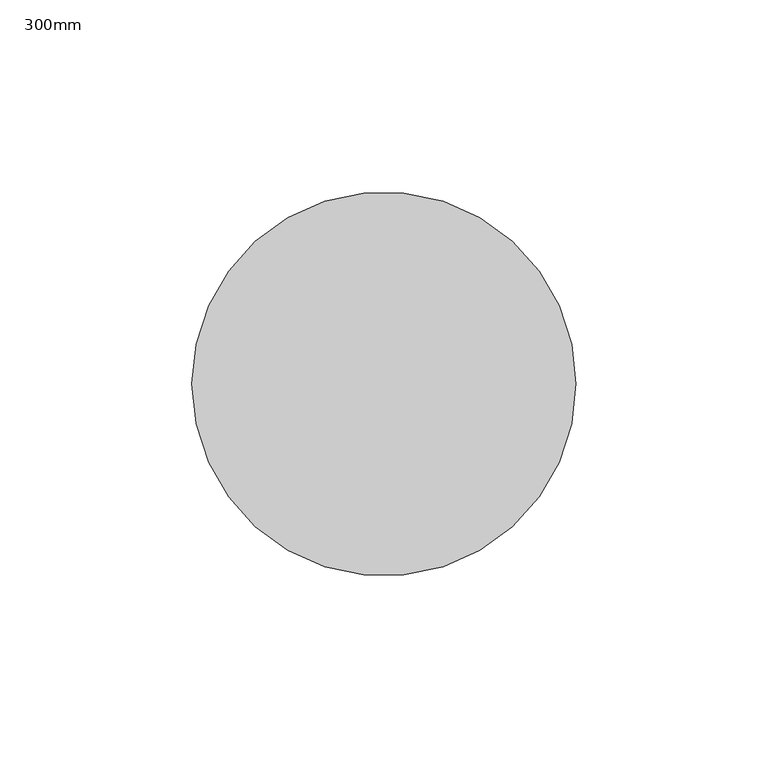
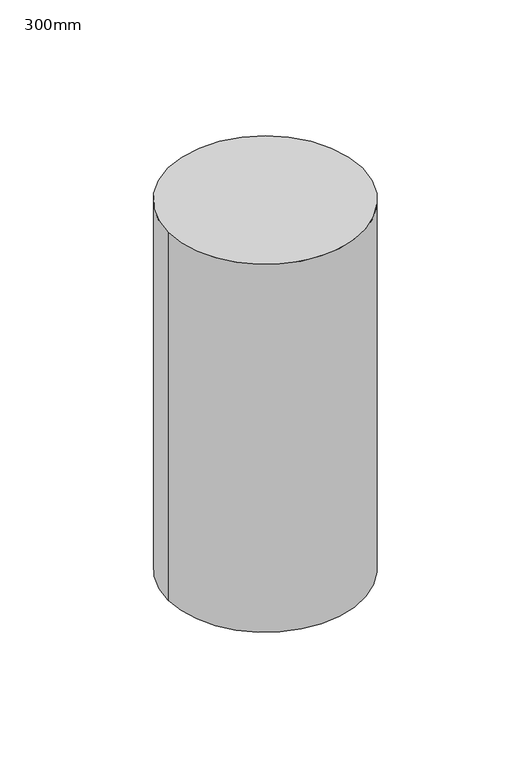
"""IFC4 building model written with IfcOpenShell, lengths in millimetres: column geometry, Słup betonowy o przekroju okrągłym : 300mm."""

from ifc_helpers import new_model, si_unit, point, frame, origin, origin_2d, place, context, project, spatial, circle_curve, trimmed, segment, composite_curve, outline, extrude, source, transform, mapped, element, save


def column_300mm_19173b5c(model_context):
    return source(origin(), model_context, "Body", "SweptSolid", [
        extrude(outline(composite_curve([segment(trimmed(circle_curve(origin_2d(), 50.0), [point((-50.0, 0.0))], [point((50.0, 0.0))], False, "CARTESIAN"), True, "CONTINUOUS"), segment(trimmed(circle_curve(origin_2d(), 50.0), [point((50.0, 0.0))], [point((-50.0, 0.0))], False, "CARTESIAN"), True, "CONTINUOUS")], self_intersect=False)), frame((0.0, 0.0, -200.0), z_axis=(0.0, 0.0, 1.0), x_axis=(1.0, 0.0, 0.0)), (0.0, 0.0, 1.0), 200.0),
    ])


if __name__ == "__main__":
    model = new_model("IFC4")
    model_context = context("Model", 3, world=origin())
    ifc_project = project(units=[si_unit("LENGTHUNIT", "METRE", prefix="MILLI")], contexts=[model_context])
    site = spatial("IfcSite", under=ifc_project)
    building = spatial("IfcBuilding", under=site)
    placement = place(None, origin())
    column_300mm_shape = column_300mm_19173b5c(model_context)
    element("IfcColumn", 1, ObjectType="Słup betonowy o przekroju okrągłym : 300mm", at=placement, inside=building, context=model_context, shape_type="MappedRepresentation", body=[
        mapped(column_300mm_shape, transform((0.0, 0.0, 0.0), x_axis=(1.0, 0.0, 0.0), y_axis=(0.0, 1.0, 0.0), z_axis=(0.0, 0.0, 1.0))),
    ])
    save(model, "model.ifc")
